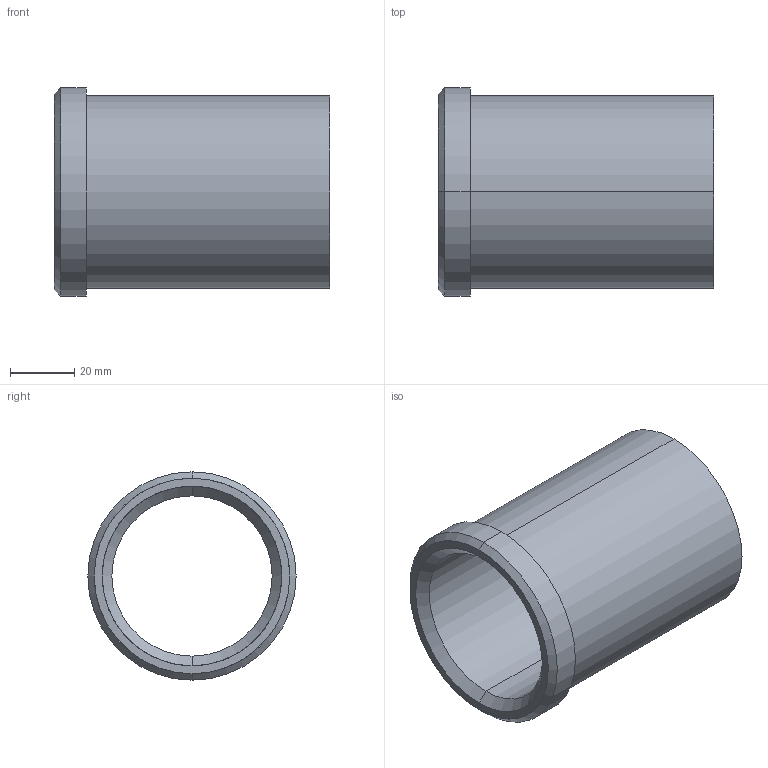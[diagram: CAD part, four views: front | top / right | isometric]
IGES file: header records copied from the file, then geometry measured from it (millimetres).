
Start section: START RECORD GO HERE.
Global section: file name: 353-50X86.igs; native system: DASSAULT SYSTEMES CATIA V5 R20 - www.3ds.com; preprocessor: CATIA Version 5 Release 20 ; author: Utente; organization: NB04-ASUS; date: 20210514.152326; units: millimetre
Bounding box: 86 x 65 x 65 mm (x, y, z)
Surface area: 31944.3 mm2 (no closed solid volume)
Topology: 0 solids, 0 shells, 15 faces, 96 edges, 96 vertices
Faces by surface type: revolution 12, plane 3
